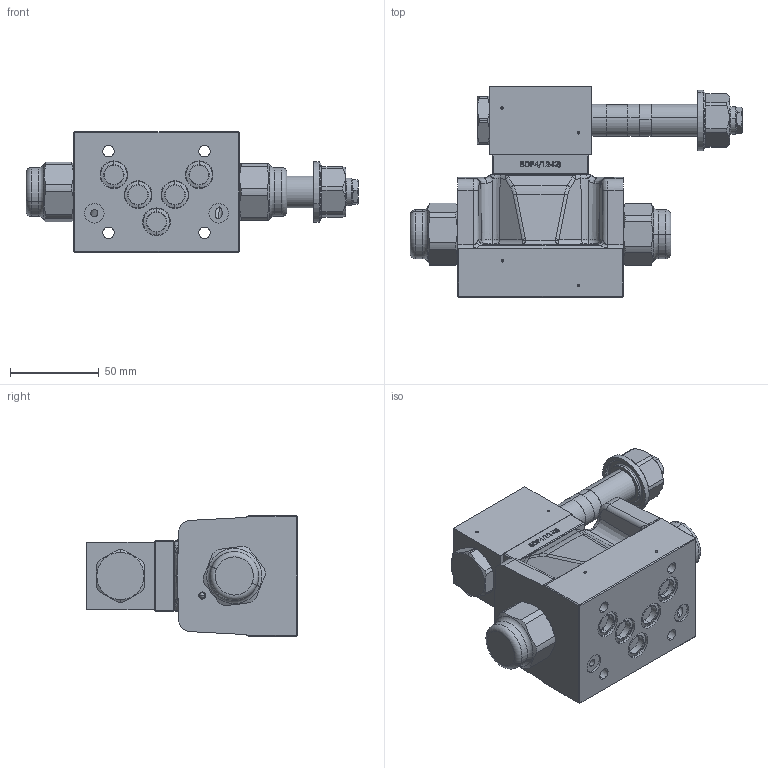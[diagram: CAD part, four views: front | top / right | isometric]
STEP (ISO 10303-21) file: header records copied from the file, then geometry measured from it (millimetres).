
FILE_DESCRIPTION (( 'STEP AP214' ), '1' );
FILE_NAME ('WVBFA10-4_2-Aside-ti_ae_xi_xe.STEP', '2018-06-12T06:16:58', ( '' ), ( '' ), 'SwSTEP 2.0', 'SolidWorks 2016', '' );
FILE_SCHEMA (( 'AUTOMOTIVE_DESIGN' ));
Length unit declared in the file: millimetre
Products named in the file (2): WVBFA10-4_2-Aside-ti_ae_xi_xe
Bounding box: 187 x 118.6 x 68 mm (x, y, z)
Volume: 526519.5 mm3; surface area: 82576.4 mm2
Topology: 7 solids, 12 shells, 1163 faces, 2788 edges, 1722 vertices
Faces by surface type: plane 427, cylinder 333, bspline 180, cone 150, torus 57, sphere 16
Entity records: 54668 total; most frequent: CARTESIAN_POINT 16250, ORIENTED_EDGE 5500, DIRECTION 4995, EDGE_CURVE 2750, AXIS2_PLACEMENT_3D 1845, VERTEX_POINT 1722, EDGE_LOOP 1312, VECTOR 1305
